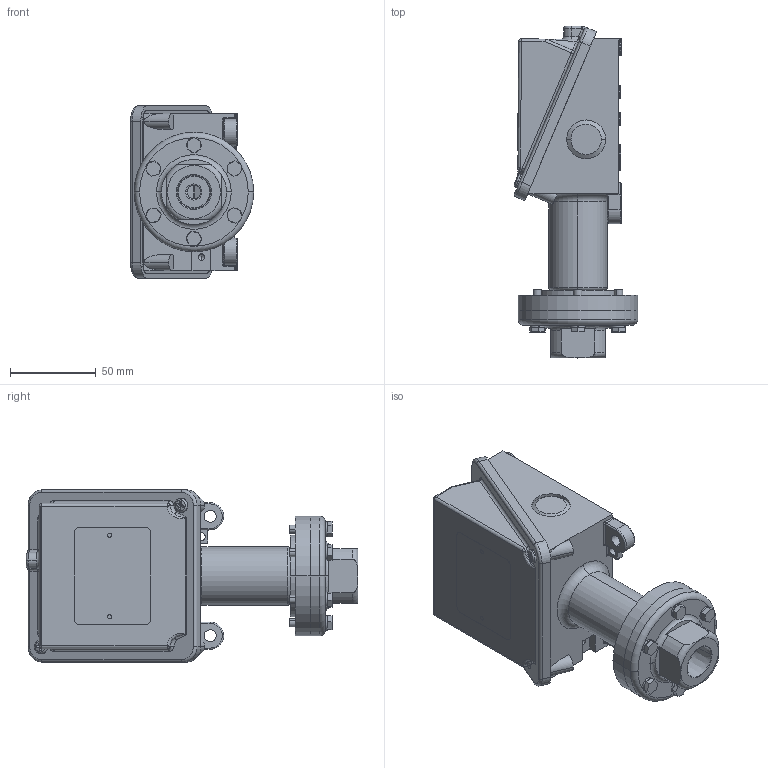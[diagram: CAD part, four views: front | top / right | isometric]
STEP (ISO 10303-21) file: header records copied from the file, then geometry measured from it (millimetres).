
FILE_DESCRIPTION (( 'STEP AP214' ), '1' );
FILE_NAME ('H100-183_186, 483_486_V1.STEP', '2025-02-21T13:47:33', ( '' ), ( '' ), 'SwSTEP 2.0', 'SolidWorks 2023', '' );
FILE_SCHEMA (( 'AUTOMOTIVE_DESIGN' ));
Length unit declared in the file: inch
Products named in the file (1): H100-183_186, 483_486_V1
Bounding box: 72.08 x 194.08 x 100.84 mm (x, y, z)
Volume: 261662.7 mm3; surface area: 139481.5 mm2
Topology: 20 solids, 20 shells, 1017 faces, 2392 edges, 1435 vertices
Faces by surface type: cylinder 408, plane 331, torus 133, cone 58, bspline 51, sphere 36
Entity records: 31345 total; most frequent: CARTESIAN_POINT 7664, DIRECTION 5191, ORIENTED_EDGE 4696, EDGE_CURVE 2348, AXIS2_PLACEMENT_3D 2044, VERTEX_POINT 1435, EDGE_LOOP 1131, LINE 1103
